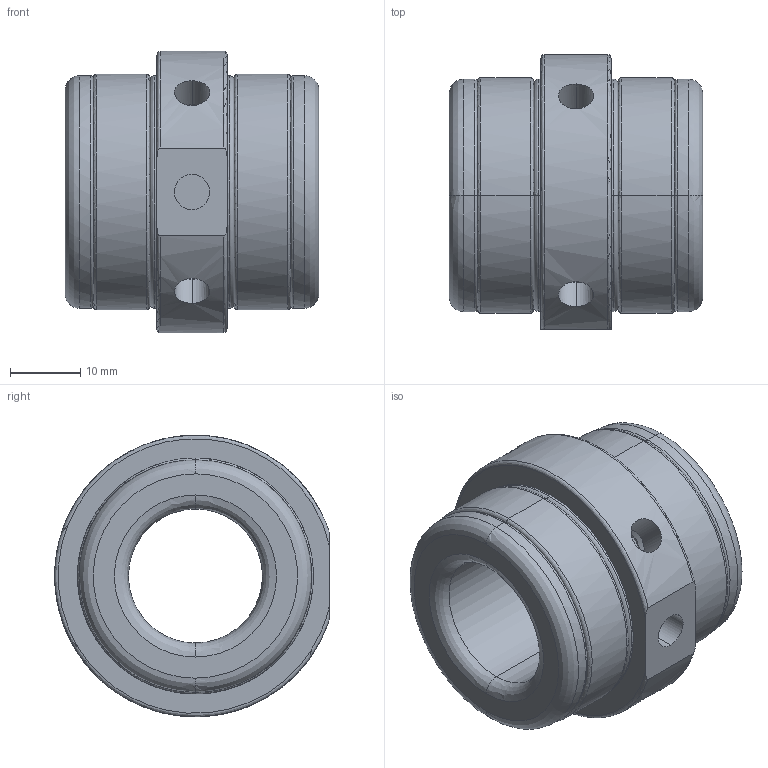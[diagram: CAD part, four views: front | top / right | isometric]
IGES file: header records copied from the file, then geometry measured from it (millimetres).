
Start section: ------------------------------------------------------------------------
Global section: file name: D:\ICADMX\tmp\trans3d_spg\TGMX25.588.RBG020GCA_7996.igs; native system: spGate; preprocessor: ver11.3.7; author: Unknown; organization: Unknown; date: 150330.135517; units: millimetre
Bounding box: 36 x 38.98 x 40 mm (x, y, z)
Volume: 24140.3 mm3; surface area: 8476.1 mm2
Topology: 1 solids, 1 shells, 83 faces, 176 edges, 96 vertices
Faces by surface type: bspline 83
